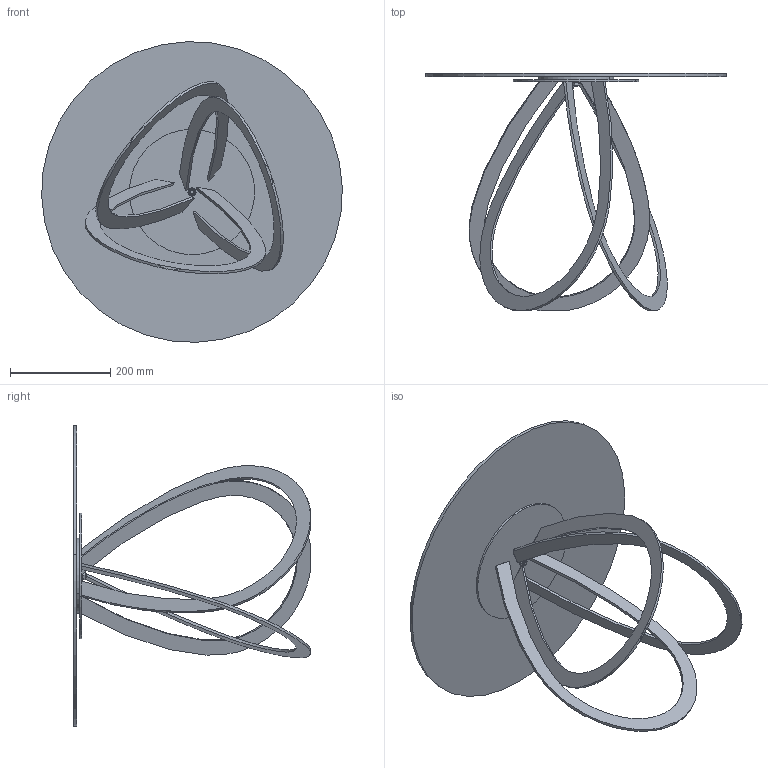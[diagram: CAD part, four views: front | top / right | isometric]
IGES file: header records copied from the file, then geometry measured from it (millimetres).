
Start section: SolidWorks IGES file using analytic representation for surfaces
Global section: file name: Y:\eforma\TECNICO\SOLIDWORKS\E-FORMA\2-TAVOLINI\FEBE LOW\02 parts\FL01G_Febe Low_d60xh48_Glass.IGS; native system: SolidWorks 2022; preprocessor: SolidWorks 2022; author: eforma.tech; date: 240806.105539; units: millimetre
Bounding box: 599.68 x 472.62 x 599.68 mm (x, y, z)
Volume: 2538773.7 mm3; surface area: 969144.6 mm2
Topology: 9 solids, 9 shells, 119 faces, 266 edges, 171 vertices
Faces by surface type: revolution 56, plane 51, bspline 12
